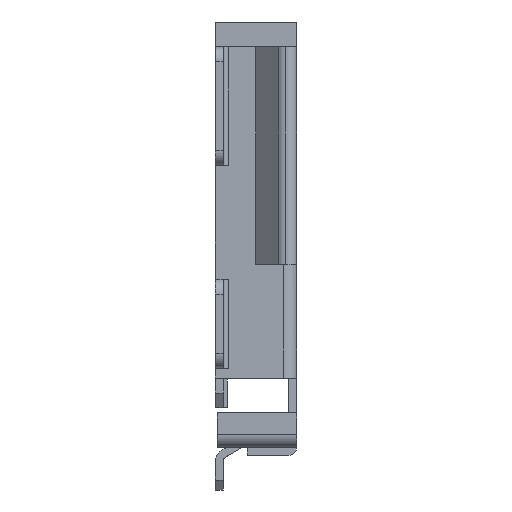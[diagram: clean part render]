
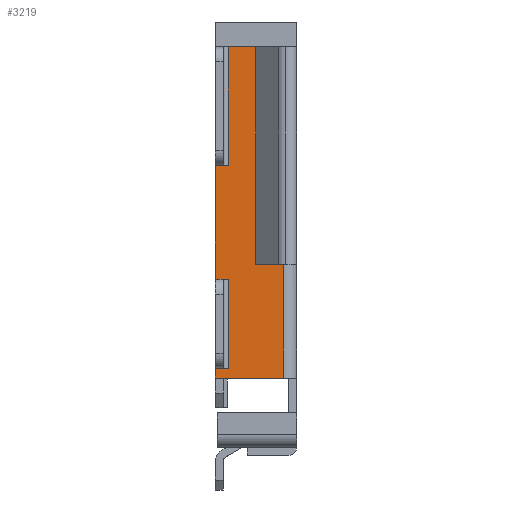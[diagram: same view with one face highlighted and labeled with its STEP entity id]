
A CAD part, left-side view. The second image highlights one B-rep face of the part: STEP entity #3219.
In plain terms, the highlighted planar face has unit normal (-1, 0, 0).
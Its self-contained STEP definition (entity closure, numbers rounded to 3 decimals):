
#319 = DIRECTION ( 'NONE',  ( 0., 0., -1. ) ) ;
#592 = EDGE_CURVE ( 'NONE', #10440, #1744, #13761, .T. ) ;
#851 = EDGE_CURVE ( 'NONE', #13565, #27801, #24739, .T. ) ;
#1078 = EDGE_CURVE ( 'NONE', #4825, #18007, #5583, .T. ) ;
#1601 = VECTOR ( 'NONE', #26472, 1000. ) ;
#1670 = VECTOR ( 'NONE', #6184, 1000. ) ;
#1744 = VERTEX_POINT ( 'NONE', #26654 ) ;
#1806 = CARTESIAN_POINT ( 'NONE',  ( -8.215, 0., -3.8 ) ) ;
#1969 = CARTESIAN_POINT ( 'NONE',  ( -8.215, 0., -3.8 ) ) ;
#2000 = CARTESIAN_POINT ( 'NONE',  ( -8.215, -0.01, -4.7 ) ) ;
#2463 = VECTOR ( 'NONE', #24205, 1000. ) ;
#2675 = CARTESIAN_POINT ( 'NONE',  ( -8.215, -0.18, -3.8 ) ) ;
#3219 = ADVANCED_FACE ( 'NONE', ( #9743 ), #25276, .T. ) ;
#3916 = ORIENTED_EDGE ( 'NONE', *, *, #27101, .F. ) ;
#4040 = CARTESIAN_POINT ( 'NONE',  ( -8.215, -0.13, -2.65 ) ) ;
#4126 = VERTEX_POINT ( 'NONE', #16378 ) ;
#4140 = ORIENTED_EDGE ( 'NONE', *, *, #6534, .T. ) ;
#4204 = CARTESIAN_POINT ( 'NONE',  ( -8.215, -0.18, -2.65 ) ) ;
#4365 = CARTESIAN_POINT ( 'NONE',  ( -8.215, -0.69, -1.45 ) ) ;
#4825 = VERTEX_POINT ( 'NONE', #4040 ) ;
#5074 = CARTESIAN_POINT ( 'NONE',  ( -8.215, -0.69, -4.8 ) ) ;
#5123 = DIRECTION ( 'NONE',  ( 0., 1., 0. ) ) ;
#5146 = LINE ( 'NONE', #5074, #15768 ) ;
#5195 = ORIENTED_EDGE ( 'NONE', *, *, #851, .T. ) ;
#5319 = CARTESIAN_POINT ( 'NONE',  ( -8.215, -0.69, -3.65 ) ) ;
#5490 = VECTOR ( 'NONE', #8710, 1000. ) ;
#5583 = LINE ( 'NONE', #4204, #29010 ) ;
#6184 = DIRECTION ( 'NONE',  ( 0., 1., 0. ) ) ;
#6219 = ORIENTED_EDGE ( 'NONE', *, *, #592, .F. ) ;
#6356 = ORIENTED_EDGE ( 'NONE', *, *, #17559, .T. ) ;
#6534 = EDGE_CURVE ( 'NONE', #18007, #14560, #15779, .T. ) ;
#6713 = EDGE_CURVE ( 'NONE', #24589, #24101, #22129, .T. ) ;
#7239 = CARTESIAN_POINT ( 'NONE',  ( -8.215, -0.13, -1.45 ) ) ;
#7300 = CARTESIAN_POINT ( 'NONE',  ( -8.215, -0.41, -1.45 ) ) ;
#7465 = CARTESIAN_POINT ( 'NONE',  ( -8.215, -0.13, -1.45 ) ) ;
#8018 = DIRECTION ( 'NONE',  ( 0., 1., 0. ) ) ;
#8119 = CARTESIAN_POINT ( 'NONE',  ( -8.215, -0.13, -1.45 ) ) ;
#8152 = ORIENTED_EDGE ( 'NONE', *, *, #24580, .T. ) ;
#8169 = DIRECTION ( 'NONE',  ( 0., -1., 0. ) ) ;
#8448 = CARTESIAN_POINT ( 'NONE',  ( -8.215, -0.18, -3.8 ) ) ;
#8513 = LINE ( 'NONE', #21909, #2463 ) ;
#8710 = DIRECTION ( 'NONE',  ( 0., 0., 1. ) ) ;
#8716 = EDGE_CURVE ( 'NONE', #27801, #12001, #29195, .T. ) ;
#9614 = LINE ( 'NONE', #8119, #26273 ) ;
#9743 = FACE_OUTER_BOUND ( 'NONE', #19894, .T. ) ;
#9829 = ORIENTED_EDGE ( 'NONE', *, *, #6713, .F. ) ;
#10152 = VECTOR ( 'NONE', #8169, 1000. ) ;
#10162 = ORIENTED_EDGE ( 'NONE', *, *, #11357, .T. ) ;
#10440 = VERTEX_POINT ( 'NONE', #20177 ) ;
#10473 = VECTOR ( 'NONE', #8018, 1000. ) ;
#10912 = VECTOR ( 'NONE', #27551, 1000. ) ;
#11264 = CARTESIAN_POINT ( 'NONE',  ( -8.215, 0., -4.7 ) ) ;
#11357 = EDGE_CURVE ( 'NONE', #4126, #22636, #19726, .T. ) ;
#12001 = VERTEX_POINT ( 'NONE', #24268 ) ;
#12707 = CARTESIAN_POINT ( 'NONE',  ( -8.215, -0.74, -1.45 ) ) ;
#12810 = CARTESIAN_POINT ( 'NONE',  ( -8.215, 0., -4.8 ) ) ;
#12873 = CARTESIAN_POINT ( 'NONE',  ( -8.215, -0.41, -3.688 ) ) ;
#12929 = ORIENTED_EDGE ( 'NONE', *, *, #27128, .F. ) ;
#13565 = VERTEX_POINT ( 'NONE', #17957 ) ;
#13652 = LINE ( 'NONE', #12873, #1601 ) ;
#13761 = LINE ( 'NONE', #8448, #21175 ) ;
#13878 = DIRECTION ( 'NONE',  ( -1., 0., 0. ) ) ;
#14560 = VERTEX_POINT ( 'NONE', #26264 ) ;
#14903 = ORIENTED_EDGE ( 'NONE', *, *, #23895, .T. ) ;
#15768 = VECTOR ( 'NONE', #18618, 1000. ) ;
#15779 = LINE ( 'NONE', #23759, #10473 ) ;
#15987 = EDGE_CURVE ( 'NONE', #12001, #16915, #13652, .T. ) ;
#16152 = LINE ( 'NONE', #12707, #10152 ) ;
#16244 = DIRECTION ( 'NONE',  ( 0., 1., 0. ) ) ;
#16378 = CARTESIAN_POINT ( 'NONE',  ( -8.215, -0.13, -4.7 ) ) ;
#16915 = VERTEX_POINT ( 'NONE', #7300 ) ;
#17075 = VECTOR ( 'NONE', #5123, 1000. ) ;
#17171 = LINE ( 'NONE', #2675, #28573 ) ;
#17559 = EDGE_CURVE ( 'NONE', #10440, #4126, #29024, .T. ) ;
#17770 = ORIENTED_EDGE ( 'NONE', *, *, #1078, .T. ) ;
#17907 = DIRECTION ( 'NONE',  ( 0., 0., 1. ) ) ;
#17957 = CARTESIAN_POINT ( 'NONE',  ( -8.215, -0.69, -4.8 ) ) ;
#18007 = VERTEX_POINT ( 'NONE', #29430 ) ;
#18407 = EDGE_CURVE ( 'NONE', #18797, #16915, #16152, .T. ) ;
#18618 = DIRECTION ( 'NONE',  ( 0., 1., 0. ) ) ;
#18797 = VERTEX_POINT ( 'NONE', #7465 ) ;
#19478 = DIRECTION ( 'NONE',  ( 0., 0., -1. ) ) ;
#19726 = LINE ( 'NONE', #28809, #1670 ) ;
#19894 = EDGE_LOOP ( 'NONE', ( #25360, #22194, #28814, #14903, #17770, #4140, #22075, #3916, #6219, #6356, #10162, #8152, #9829, #12929, #5195 ) ) ;
#19951 = AXIS2_PLACEMENT_3D ( 'NONE', #25181, #13878, #319 ) ;
#20032 = DIRECTION ( 'NONE',  ( 0., 1., 0. ) ) ;
#20100 = VECTOR ( 'NONE', #17907, 1000. ) ;
#20177 = CARTESIAN_POINT ( 'NONE',  ( -8.215, -0.13, -3.8 ) ) ;
#20977 = VERTEX_POINT ( 'NONE', #1806 ) ;
#21175 = VECTOR ( 'NONE', #26576, 1000. ) ;
#21909 = CARTESIAN_POINT ( 'NONE',  ( -8.215, -0.18, -4.7 ) ) ;
#22075 = ORIENTED_EDGE ( 'NONE', *, *, #27494, .F. ) ;
#22129 = LINE ( 'NONE', #24550, #5490 ) ;
#22194 = ORIENTED_EDGE ( 'NONE', *, *, #15987, .T. ) ;
#22373 = DIRECTION ( 'NONE',  ( 0., 0., 1. ) ) ;
#22636 = VERTEX_POINT ( 'NONE', #2000 ) ;
#23759 = CARTESIAN_POINT ( 'NONE',  ( -8.215, -0.18, -2.65 ) ) ;
#23895 = EDGE_CURVE ( 'NONE', #18797, #4825, #9614, .T. ) ;
#24101 = VERTEX_POINT ( 'NONE', #11264 ) ;
#24205 = DIRECTION ( 'NONE',  ( 0., 1., 0. ) ) ;
#24268 = CARTESIAN_POINT ( 'NONE',  ( -8.215, -0.41, -3.65 ) ) ;
#24550 = CARTESIAN_POINT ( 'NONE',  ( -8.215, 0., -4.8 ) ) ;
#24580 = EDGE_CURVE ( 'NONE', #22636, #24101, #8513, .T. ) ;
#24589 = VERTEX_POINT ( 'NONE', #12810 ) ;
#24739 = LINE ( 'NONE', #4365, #20100 ) ;
#25181 = CARTESIAN_POINT ( 'NONE',  ( -8.215, -0.74, -1.45 ) ) ;
#25276 = PLANE ( 'NONE',  #19951 ) ;
#25360 = ORIENTED_EDGE ( 'NONE', *, *, #8716, .T. ) ;
#25641 = CARTESIAN_POINT ( 'NONE',  ( -8.215, -0.69, -3.65 ) ) ;
#26264 = CARTESIAN_POINT ( 'NONE',  ( -8.215, 0., -2.65 ) ) ;
#26273 = VECTOR ( 'NONE', #19478, 1000. ) ;
#26472 = DIRECTION ( 'NONE',  ( 0., 0., 1. ) ) ;
#26576 = DIRECTION ( 'NONE',  ( 0., 1., 0. ) ) ;
#26654 = CARTESIAN_POINT ( 'NONE',  ( -8.215, -0.01, -3.8 ) ) ;
#27101 = EDGE_CURVE ( 'NONE', #1744, #20977, #17171, .T. ) ;
#27128 = EDGE_CURVE ( 'NONE', #13565, #24589, #5146, .T. ) ;
#27494 = EDGE_CURVE ( 'NONE', #20977, #14560, #29265, .T. ) ;
#27551 = DIRECTION ( 'NONE',  ( 0., 0., -1. ) ) ;
#27801 = VERTEX_POINT ( 'NONE', #25641 ) ;
#28544 = VECTOR ( 'NONE', #22373, 1000. ) ;
#28573 = VECTOR ( 'NONE', #16244, 1000. ) ;
#28809 = CARTESIAN_POINT ( 'NONE',  ( -8.215, -0.18, -4.7 ) ) ;
#28814 = ORIENTED_EDGE ( 'NONE', *, *, #18407, .F. ) ;
#29010 = VECTOR ( 'NONE', #20032, 1000. ) ;
#29024 = LINE ( 'NONE', #7239, #10912 ) ;
#29195 = LINE ( 'NONE', #5319, #17075 ) ;
#29265 = LINE ( 'NONE', #1969, #28544 ) ;
#29430 = CARTESIAN_POINT ( 'NONE',  ( -8.215, -0.01, -2.65 ) ) ;
